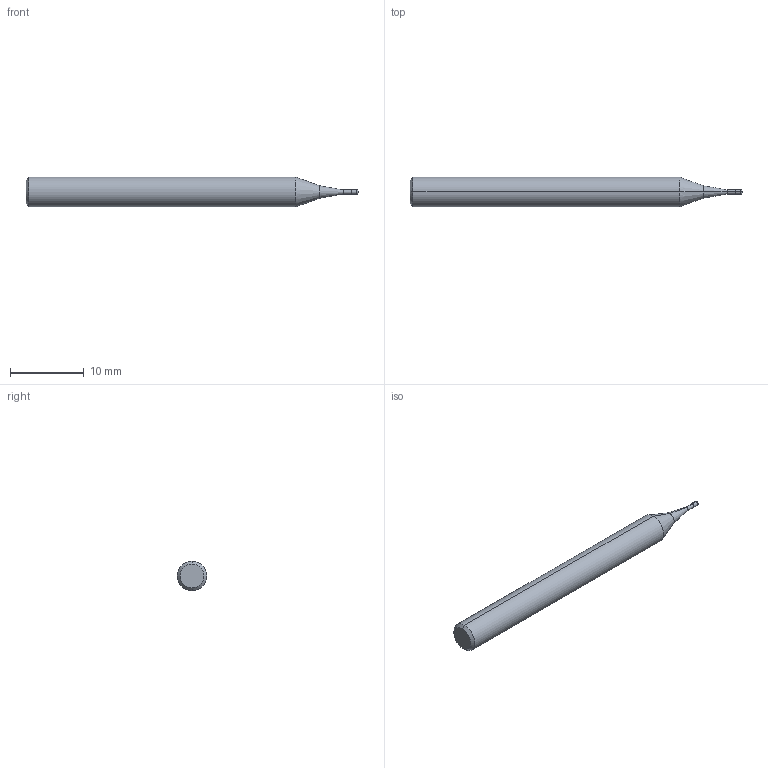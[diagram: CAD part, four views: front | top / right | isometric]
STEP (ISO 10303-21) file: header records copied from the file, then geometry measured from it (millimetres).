
FILE_DESCRIPTION (( 'STEP AP214' ), '1' );
FILE_NAME ('SEME610060202E.STEP', '2018-04-09T08:49:09', ( '' ), ( '' ), 'SwSTEP 2.0', 'SolidWorks 2014', '' );
FILE_SCHEMA (( 'AUTOMOTIVE_DESIGN' ));
Length unit declared in the file: millimetre
Products named in the file (1): SEME610060202E
Bounding box: 45 x 4 x 4 mm (x, y, z)
Volume: 484.1 mm3; surface area: 515.2 mm2
Topology: 2 solids, 2 shells, 18 faces, 32 edges, 18 vertices
Faces by surface type: cylinder 6, cone 6, plane 4, torus 2
Entity records: 479 total; most frequent: DIRECTION 90, CARTESIAN_POINT 69, ORIENTED_EDGE 64, AXIS2_PLACEMENT_3D 39, EDGE_CURVE 32, CIRCLE 20, EDGE_LOOP 18, VERTEX_POINT 18
